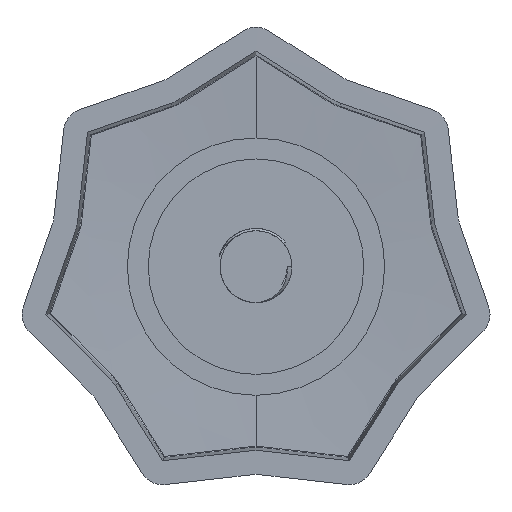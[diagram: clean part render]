
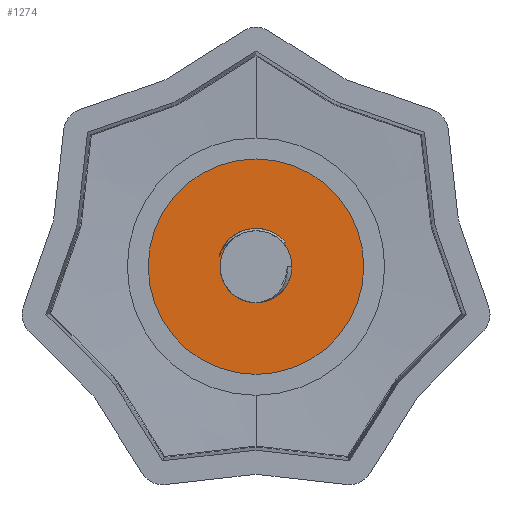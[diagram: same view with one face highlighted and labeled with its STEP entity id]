
A CAD part, front view. The second image highlights one B-rep face of the part: STEP entity #1274.
In plain terms, the highlighted planar face has unit normal (0, -1, 0).
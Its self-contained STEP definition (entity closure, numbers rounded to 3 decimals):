
#13 = CARTESIAN_POINT ( 'NONE',  ( -1.822, -8., 2.41 ) ) ;
#303 = CIRCLE ( 'NONE', #5385, 3.2 ) ;
#309 = CARTESIAN_POINT ( 'NONE',  ( 0., -8., 0. ) ) ;
#403 = DIRECTION ( 'NONE',  ( 0., 0., -1. ) ) ;
#438 = EDGE_CURVE ( 'NONE', #3167, #3507, #7239, .T. ) ;
#577 = CARTESIAN_POINT ( 'NONE',  ( 0., -8., 0. ) ) ;
#610 = CARTESIAN_POINT ( 'NONE',  ( -2.266, -8., 2.074 ) ) ;
#689 = EDGE_CURVE ( 'NONE', #1081, #5513, #6945, .T. ) ;
#803 = CARTESIAN_POINT ( 'NONE',  ( 0., -8., -3. ) ) ;
#832 = CARTESIAN_POINT ( 'NONE',  ( 0., -8., 0. ) ) ;
#910 = VERTEX_POINT ( 'NONE', #2054 ) ;
#939 = DIRECTION ( 'NONE',  ( 0., 0., -1. ) ) ;
#963 = EDGE_LOOP ( 'NONE', ( #3810, #3198 ) ) ;
#1081 = VERTEX_POINT ( 'NONE', #4646 ) ;
#1198 = DIRECTION ( 'NONE',  ( 0., 0., -1. ) ) ;
#1222 = CARTESIAN_POINT ( 'NONE',  ( -2.639, -8., 1.668 ) ) ;
#1268 = PLANE ( 'NONE',  #1767 ) ;
#1274 = ADVANCED_FACE ( 'NONE', ( #7591, #6187 ), #1268, .T. ) ;
#1432 = DIRECTION ( 'NONE',  ( 0., 0., -1. ) ) ;
#1458 = AXIS2_PLACEMENT_3D ( 'NONE', #309, #4551, #939 ) ;
#1767 = AXIS2_PLACEMENT_3D ( 'NONE', #5512, #2480, #6743 ) ;
#1830 = CARTESIAN_POINT ( 'NONE',  ( -2.938, -8., 1.198 ) ) ;
#2054 = CARTESIAN_POINT ( 'NONE',  ( 2.451, -8., 2.057 ) ) ;
#2253 = EDGE_CURVE ( 'NONE', #5138, #6799, #6697, .T. ) ;
#2417 = AXIS2_PLACEMENT_3D ( 'NONE', #577, #4815, #1198 ) ;
#2436 = CARTESIAN_POINT ( 'NONE',  ( -3.083, -8., 0.856 ) ) ;
#2480 = DIRECTION ( 'NONE',  ( 0., -1., 0. ) ) ;
#2502 = CARTESIAN_POINT ( 'NONE',  ( 0., -8., 0. ) ) ;
#2661 = CIRCLE ( 'NONE', #2417, 3. ) ;
#2845 = EDGE_CURVE ( 'NONE', #5513, #910, #303, .T. ) ;
#3028 = CARTESIAN_POINT ( 'NONE',  ( 0., -8., 0. ) ) ;
#3108 = DIRECTION ( 'NONE',  ( 0., 0., -1. ) ) ;
#3131 = VECTOR ( 'NONE', #7295, 1000. ) ;
#3167 = VERTEX_POINT ( 'NONE', #803 ) ;
#3198 = ORIENTED_EDGE ( 'NONE', *, *, #4918, .T. ) ;
#3507 = VERTEX_POINT ( 'NONE', #5220 ) ;
#3603 = ORIENTED_EDGE ( 'NONE', *, *, #5326, .F. ) ;
#3613 = CARTESIAN_POINT ( 'NONE',  ( -1.661, -8., 2.498 ) ) ;
#3810 = ORIENTED_EDGE ( 'NONE', *, *, #2253, .T. ) ;
#4018 = DIRECTION ( 'NONE',  ( 0., 1., 0. ) ) ;
#4088 = ORIENTED_EDGE ( 'NONE', *, *, #7209, .T. ) ;
#4220 = CARTESIAN_POINT ( 'NONE',  ( -1.977, -8., 2.307 ) ) ;
#4512 = CARTESIAN_POINT ( 'NONE',  ( 0., -8., -9. ) ) ;
#4551 = DIRECTION ( 'NONE',  ( 0., -1., 0. ) ) ;
#4646 = CARTESIAN_POINT ( 'NONE',  ( -1.661, -8., 2.498 ) ) ;
#4815 = DIRECTION ( 'NONE',  ( 0., -1., 0. ) ) ;
#4843 = CARTESIAN_POINT ( 'NONE',  ( -2.398, -8., 1.946 ) ) ;
#4918 = EDGE_CURVE ( 'NONE', #6799, #5138, #5446, .T. ) ;
#4994 = CARTESIAN_POINT ( 'NONE',  ( -3.083, -8., 0.856 ) ) ;
#5060 = DIRECTION ( 'NONE',  ( 0., -1., 0. ) ) ;
#5138 = VERTEX_POINT ( 'NONE', #6438 ) ;
#5220 = CARTESIAN_POINT ( 'NONE',  ( 2.298, -8., 1.928 ) ) ;
#5326 = EDGE_CURVE ( 'NONE', #1081, #3167, #2661, .T. ) ;
#5385 = AXIS2_PLACEMENT_3D ( 'NONE', #7664, #4018, #403 ) ;
#5446 = CIRCLE ( 'NONE', #5977, 9. ) ;
#5476 = CARTESIAN_POINT ( 'NONE',  ( -2.749, -8., 1.516 ) ) ;
#5512 = CARTESIAN_POINT ( 'NONE',  ( 0., -8., 0. ) ) ;
#5513 = VERTEX_POINT ( 'NONE', #4994 ) ;
#5529 = AXIS2_PLACEMENT_3D ( 'NONE', #2502, #6769, #3108 ) ;
#5711 = ORIENTED_EDGE ( 'NONE', *, *, #2845, .T. ) ;
#5741 = ORIENTED_EDGE ( 'NONE', *, *, #689, .T. ) ;
#5977 = AXIS2_PLACEMENT_3D ( 'NONE', #832, #5060, #1432 ) ;
#6082 = CARTESIAN_POINT ( 'NONE',  ( -3.018, -8., 1.031 ) ) ;
#6187 = FACE_BOUND ( 'NONE', #6319, .T. ) ;
#6319 = EDGE_LOOP ( 'NONE', ( #5711, #4088, #7667, #3603, #5741 ) ) ;
#6379 = LINE ( 'NONE', #3028, #3131 ) ;
#6438 = CARTESIAN_POINT ( 'NONE',  ( 0., -8., 9. ) ) ;
#6697 = CIRCLE ( 'NONE', #1458, 9. ) ;
#6743 = DIRECTION ( 'NONE',  ( 0., 0., -1. ) ) ;
#6769 = DIRECTION ( 'NONE',  ( 0., -1., 0. ) ) ;
#6799 = VERTEX_POINT ( 'NONE', #4512 ) ;
#6945 = B_SPLINE_CURVE_WITH_KNOTS ( 'NONE', 3,
 ( #3613, #13, #4220, #610, #4843, #1222, #5476, #1830, #6082, #2436 ),
 .UNSPECIFIED., .F., .F.,
 ( 4, 2, 2, 2, 4 ),
 ( 0.004, 0.005, 0.005, 0.006, 0.006 ),
 .UNSPECIFIED. ) ;
#7209 = EDGE_CURVE ( 'NONE', #910, #3507, #6379, .T. ) ;
#7239 = CIRCLE ( 'NONE', #5529, 3. ) ;
#7295 = DIRECTION ( 'NONE',  ( -0.766, 0., -0.643 ) ) ;
#7591 = FACE_OUTER_BOUND ( 'NONE', #963, .T. ) ;
#7664 = CARTESIAN_POINT ( 'NONE',  ( 0., -8., 0. ) ) ;
#7667 = ORIENTED_EDGE ( 'NONE', *, *, #438, .F. ) ;
